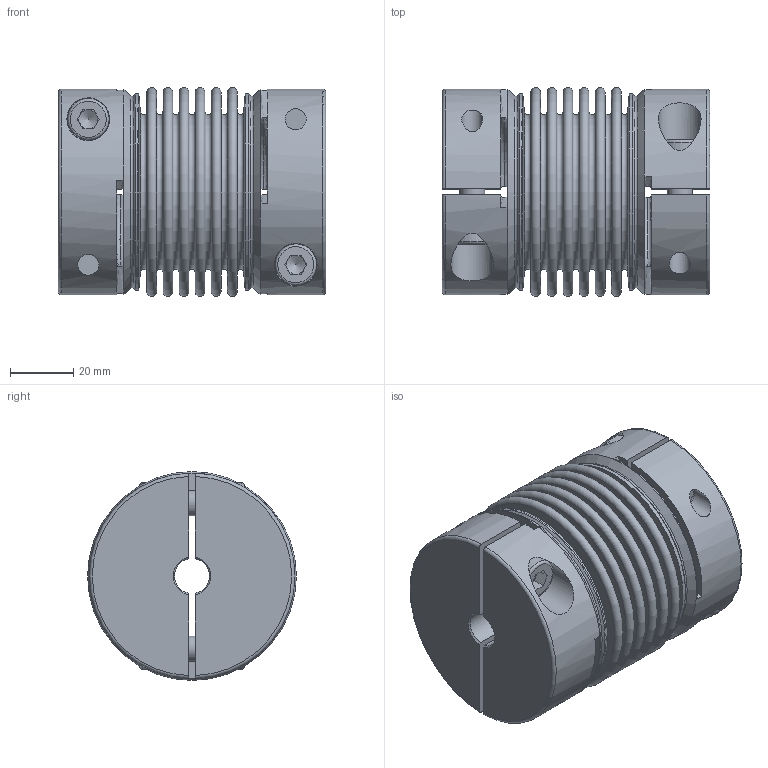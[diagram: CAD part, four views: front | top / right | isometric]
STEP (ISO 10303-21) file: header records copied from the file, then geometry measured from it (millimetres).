
FILE_DESCRIPTION(/* description */ ('Unknown','CAx-IF Rec.Pracs.---Representation and Presentation of Product Manufacturing Information (PMI)---4.0---2014-10-13','CAx-IF Rec.Pracs.---3D Tessellated Geometry---0.4---2014-09-14','2;1'),/* implementation_level */ '2;1');
FILE_NAME(/* name */ 'KG-HS 80-6W',/* time_stamp */ '2022-11-25T11:45:50+01:00',/* author */ ('Unknown'),/* organization */ ('Unknown'),/* preprocessor_version */ 'ST-DEVELOPER v18.102',/* originating_system */ 'Solid Edge',/* authorisation */ 'Unknown');
FILE_SCHEMA (('AP242_MANAGED_MODEL_BASED_3D_ENGINEERING_MIM_LF { 1 0 10303 442 1 1 4 }'));
Length unit declared in the file: millimetre
Products named in the file (1): 04824569
Bounding box: 84.61 x 66 x 66 mm (x, y, z)
Volume: 136241.4 mm3; surface area: 85833.2 mm2
Topology: 1 solids, 1 shells, 214 faces, 481 edges, 309 vertices
Faces by surface type: plane 110, cylinder 42, torus 42, cone 20
Full cylindrical faces by diameter (mm): 6.647 x8, 8 x4, 8.5 x4, 13 x4, 13.5 x4, 61 x1, 61.6 x1, 62 x2, 65 x2
Entity records: 7556 total; most frequent: CARTESIAN_POINT 1602, DIRECTION 960, ORIENTED_EDGE 760, AXIS2_PLACEMENT_3D 412, EDGE_CURVE 380, FACE_BOUND 344, EDGE_LOOP 340, VERTEX_POINT 288
